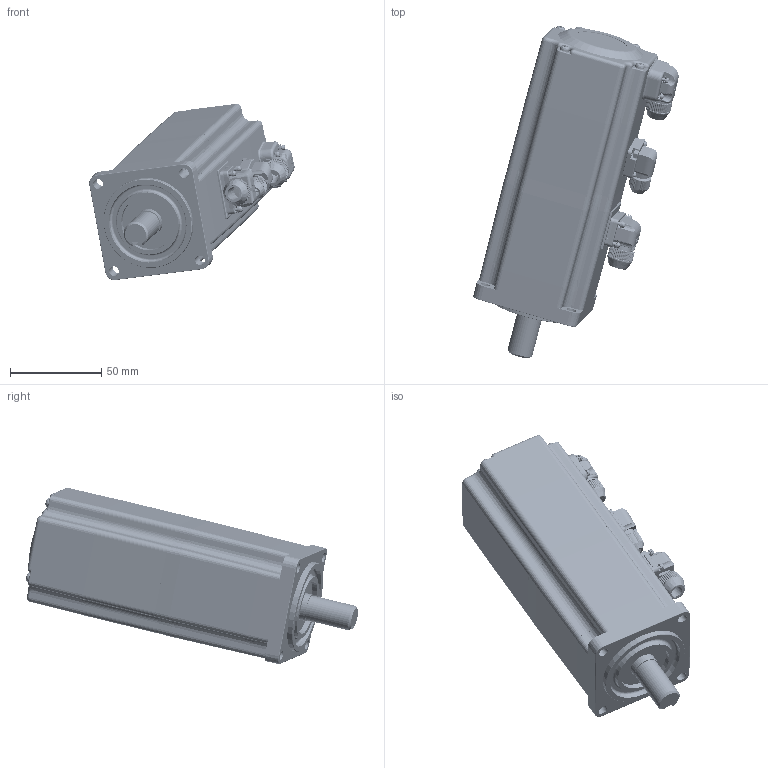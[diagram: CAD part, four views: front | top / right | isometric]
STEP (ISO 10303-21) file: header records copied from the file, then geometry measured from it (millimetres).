
FILE_DESCRIPTION((''),'2;1');
FILE_NAME('60-200W-Z','2017-05-26T',('Administrator'),(''),'PRO/ENGINEER BY PARAMETRIC TECHNOLOGY CORPORATION, 2010280','PRO/ENGINEER BY PARAMETRIC TECHNOLOGY CORPORATION, 2010280','');
FILE_SCHEMA(('CONFIG_CONTROL_DESIGN'));
Products named in the file (1): 60-200W-Z
Bounding box: 112.68 x 181.98 x 96.67 mm (x, y, z)
Volume: 329842 mm3; surface area: 99638 mm2
Topology: 42 solids, 78 shells, 10214 faces, 25611 edges, 15354 vertices
Faces by surface type: plane 5760, cylinder 1701, bspline 1165, cone 938, extrusion 266, torus 188, sphere 183, revolution 13
Entity records: 370918 total; most frequent: CARTESIAN_POINT 141360, ORIENTED_EDGE 50315, DIRECTION 42212, EDGE_CURVE 25420, VECTOR 15889, LINE 15623, VERTEX_POINT 15354, AXIS2_PLACEMENT_3D 13155
